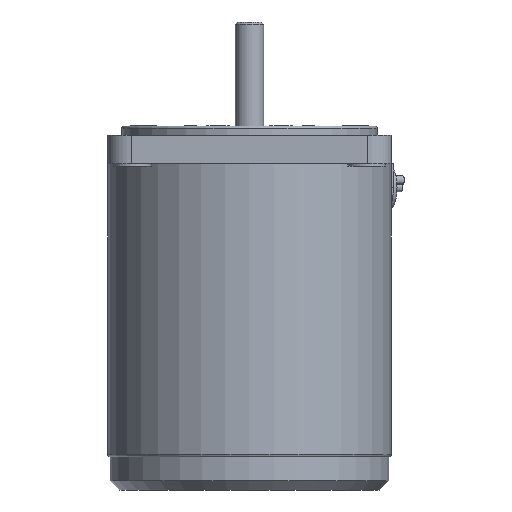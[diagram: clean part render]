
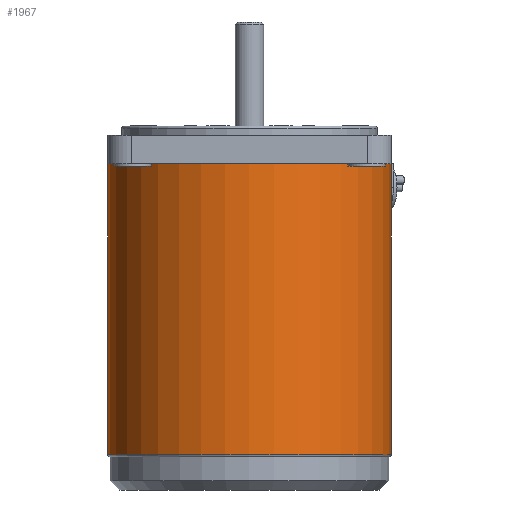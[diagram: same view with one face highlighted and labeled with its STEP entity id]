
A CAD part, front view. The second image highlights one B-rep face of the part: STEP entity #1967.
In plain terms, the highlighted cylindrical face has radius 30 mm (diameter 60 mm), a full revolution.
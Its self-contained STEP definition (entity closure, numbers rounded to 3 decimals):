
#600=CARTESIAN_POINT('',(29.33,6.304,64.0));
#601=VERTEX_POINT('',#600);
#608=CARTESIAN_POINT('',(25.197,16.282,64.0));
#609=VERTEX_POINT('',#608);
#610=CARTESIAN_POINT('',(25.197,16.282,64.));
#611=CARTESIAN_POINT('',(25.197,16.282,63.32));
#612=CARTESIAN_POINT('',(25.273,16.166,62.596));
#613=CARTESIAN_POINT('',(25.57,15.692,61.266));
#614=CARTESIAN_POINT('',(25.79,15.334,60.66));
#615=CARTESIAN_POINT('',(26.27,14.496,59.703));
#616=CARTESIAN_POINT('',(26.562,13.961,59.288));
#617=CARTESIAN_POINT('',(27.156,12.767,58.736));
#618=CARTESIAN_POINT('',(27.456,12.108,58.6));
#619=CARTESIAN_POINT('',(27.976,10.853,58.6));
#620=CARTESIAN_POINT('',(28.23,10.174,58.736));
#621=CARTESIAN_POINT('',(28.654,8.91,59.288));
#622=CARTESIAN_POINT('',(28.826,8.325,59.703));
#623=CARTESIAN_POINT('',(29.079,7.394,60.66));
#624=CARTESIAN_POINT('',(29.177,6.985,61.266));
#625=CARTESIAN_POINT('',(29.302,6.44,62.596));
#626=CARTESIAN_POINT('',(29.33,6.304,63.32));
#627=CARTESIAN_POINT('',(29.33,6.304,64.));
#628=B_SPLINE_CURVE_WITH_KNOTS('',3,(#610,#611,#612,#613,#614,#615,#616,#617,#618,#619,#620,#621,#622,#623,#624,#625,#626,#627),.UNSPECIFIED.,.F.,.U.,(4,2,2,2,2,2,2,2,4),(1.631,1.835,2.039,2.243,2.447,2.651,2.854,3.058,3.262),.UNSPECIFIED.);
#629=EDGE_CURVE('',#609,#601,#628,.T.);
#647=CARTESIAN_POINT('',(25.197,16.282,69.0));
#648=VERTEX_POINT('',#647);
#649=CARTESIAN_POINT('',(25.197,16.282,69.0));
#650=DIRECTION('',(0.0,0.0,-1.0));
#651=VECTOR('',#650,5.0);
#652=LINE('',#649,#651);
#653=EDGE_CURVE('',#648,#609,#652,.T.);
#680=CARTESIAN_POINT('',(29.33,6.304,69.0));
#681=VERTEX_POINT('',#680);
#688=CARTESIAN_POINT('',(29.33,6.304,64.0));
#689=DIRECTION('',(0.0,0.0,1.0));
#690=VECTOR('',#689,5.0);
#691=LINE('',#688,#690);
#692=EDGE_CURVE('',#601,#681,#691,.T.);
#723=CARTESIAN_POINT('',(0.0,30.0,69.0));
#724=VERTEX_POINT('',#723);
#725=CARTESIAN_POINT('',(0.0,0.0,69.0));
#726=DIRECTION('',(0.0,0.0,1.0));
#727=DIRECTION('',(1.0,0.0,0.0));
#728=AXIS2_PLACEMENT_3D('',#725,#726,#727);
#729=CIRCLE('',#728,30.0);
#730=EDGE_CURVE('',#648,#724,#729,.T.);
#1881=CARTESIAN_POINT('',(-30.0,0.0,69.0));
#1882=VERTEX_POINT('',#1881);
#1883=CARTESIAN_POINT('',(0.0,0.0,69.0));
#1884=DIRECTION('',(0.0,0.0,1.0));
#1885=DIRECTION('',(1.0,0.0,0.0));
#1886=AXIS2_PLACEMENT_3D('',#1883,#1884,#1885);
#1887=CIRCLE('',#1886,30.0);
#1888=EDGE_CURVE('',#724,#1882,#1887,.T.);
#1919=CARTESIAN_POINT('',(0.0,0.0,0.0));
#1920=DIRECTION('',(0.0,0.0,1.0));
#1921=DIRECTION('',(-1.0,0.0,0.0));
#1922=AXIS2_PLACEMENT_3D('',#1919,#1920,#1921);
#1923=CYLINDRICAL_SURFACE('',#1922,30.0);
#1924=ORIENTED_EDGE('',*,*,#629,.T.);
#1925=ORIENTED_EDGE('',*,*,#692,.T.);
#1926=CARTESIAN_POINT('',(30.0,0.0,69.0));
#1927=VERTEX_POINT('',#1926);
#1928=CARTESIAN_POINT('',(0.0,0.0,69.0));
#1929=DIRECTION('',(0.0,0.0,1.0));
#1930=DIRECTION('',(1.0,0.0,0.0));
#1931=AXIS2_PLACEMENT_3D('',#1928,#1929,#1930);
#1932=CIRCLE('',#1931,30.0);
#1933=EDGE_CURVE('',#1927,#681,#1932,.T.);
#1934=ORIENTED_EDGE('',*,*,#1933,.F.);
#1935=CARTESIAN_POINT('',(0.0,-30.0,69.0));
#1936=VERTEX_POINT('',#1935);
#1937=CARTESIAN_POINT('',(0.0,0.0,69.0));
#1938=DIRECTION('',(0.0,0.0,1.0));
#1939=DIRECTION('',(1.0,0.0,0.0));
#1940=AXIS2_PLACEMENT_3D('',#1937,#1938,#1939);
#1941=CIRCLE('',#1940,30.0);
#1942=EDGE_CURVE('',#1936,#1927,#1941,.T.);
#1943=ORIENTED_EDGE('',*,*,#1942,.F.);
#1944=CARTESIAN_POINT('',(0.0,0.0,69.0));
#1945=DIRECTION('',(0.0,0.0,1.0));
#1946=DIRECTION('',(1.0,0.0,0.0));
#1947=AXIS2_PLACEMENT_3D('',#1944,#1945,#1946);
#1948=CIRCLE('',#1947,30.0);
#1949=EDGE_CURVE('',#1882,#1936,#1948,.T.);
#1950=ORIENTED_EDGE('',*,*,#1949,.F.);
#1951=ORIENTED_EDGE('',*,*,#1888,.F.);
#1952=ORIENTED_EDGE('',*,*,#730,.F.);
#1953=ORIENTED_EDGE('',*,*,#653,.T.);
#1954=EDGE_LOOP('',(#1924,#1925,#1934,#1943,#1950,#1951,#1952,#1953));
#1955=FACE_OUTER_BOUND('',#1954,.T.);
#1956=CARTESIAN_POINT('',(-30.0,0.,7.5));
#1957=VERTEX_POINT('',#1956);
#1958=CARTESIAN_POINT('',(0.0,0.0,7.5));
#1959=DIRECTION('',(0.0,0.0,-1.0));
#1960=DIRECTION('',(1.0,0.0,0.0));
#1961=AXIS2_PLACEMENT_3D('',#1958,#1959,#1960);
#1962=CIRCLE('',#1961,30.0);
#1963=EDGE_CURVE('',#1957,#1957,#1962,.T.);
#1964=ORIENTED_EDGE('',*,*,#1963,.F.);
#1965=EDGE_LOOP('',(#1964));
#1966=FACE_BOUND('',#1965,.T.);
#1967=ADVANCED_FACE('',(#1955,#1966),#1923,.T.);
